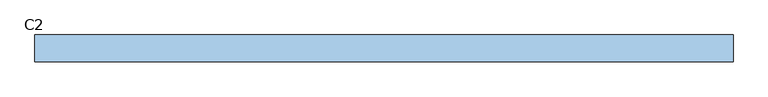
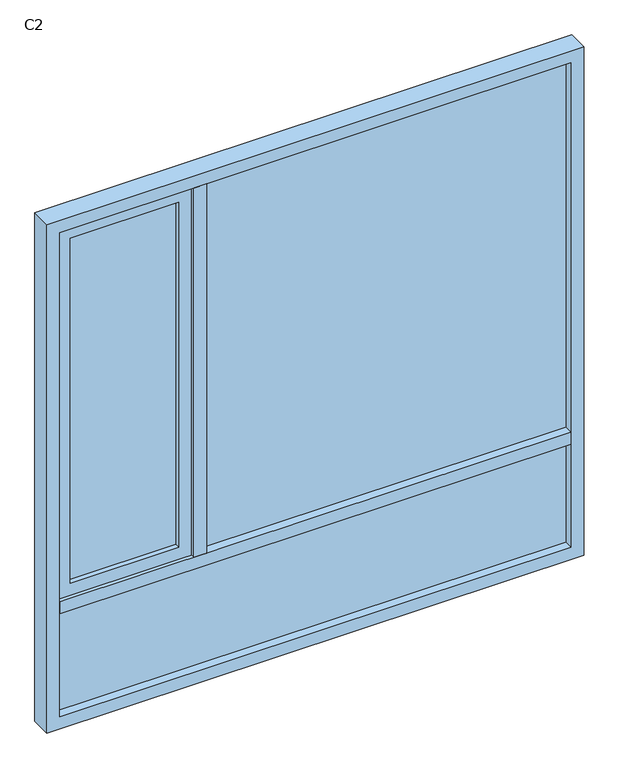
"""IFC4 building model written with IfcOpenShell, lengths in millimetres: window geometry, 组合窗 - 双层双列(平开+固定) - 下部单扇 : C2."""

from ifc_helpers import new_model, si_unit, frame, origin, place, context, project, spatial, polyline, outline, extrude, source, transform, mapped, element, save


def c2_cc7e28b3(model_context):
    return source(origin(), model_context, "Body", "SweptSolid", [
        extrude(outline(polyline([(-525.0, -10.0), (-525.0, -20.0), (-950.0, -20.0), (-950.0, -10.0), (-525.0, -10.0)])), frame((0.0, 0.0, 1175.0), z_axis=(0.0, 0.0, 1.0), x_axis=(1.0, 0.0, 0.0)), (0.0, 0.0, 1.0), 1425.0),
        extrude(outline(polyline([(1125.0, -475.0), (2650.0, -475.0), (2650.0, -1000.0), (1125.0, -1000.0), (1125.0, -475.0)]), holes=[polyline([(2600.0, -525.0), (1175.0, -525.0), (1175.0, -950.0), (2600.0, -950.0), (2600.0, -525.0)])]), frame((0.0, -40.0, 0.0), z_axis=(0.0, 1.0, 0.0), x_axis=(0.0, 0.0, 1.0)), (0.0, 0.0, 1.0), 50.0),
        extrude(outline(polyline([(1000.0, -10.0), (1000.0, -20.0), (-1000.0, -20.0), (-1000.0, -10.0), (1000.0, -10.0)])), frame((0.0, 0.0, 650.0), z_axis=(0.0, 0.0, 1.0), x_axis=(1.0, 0.0, 0.0)), (0.0, 0.0, 1.0), 425.0),
        extrude(outline(polyline([(1000.0, -10.0), (1000.0, -20.0), (-425.0, -20.0), (-425.0, -10.0), (1000.0, -10.0)])), frame((0.0, 0.0, 1125.0), z_axis=(0.0, 0.0, 1.0), x_axis=(1.0, 0.0, 0.0)), (0.0, 0.0, 1.0), 1525.0),
        extrude(outline(polyline([(-475.0, -55.0), (-475.0, 25.0), (-425.0, 25.0), (-425.0, -55.0), (-475.0, -55.0)])), frame((0.0, 0.0, 1125.0), z_axis=(0.0, 0.0, 1.0), x_axis=(1.0, 0.0, 0.0)), (0.0, 0.0, 1.0), 1525.0),
        extrude(outline(polyline([(-1000.0, -55.0), (-1000.0, 25.0), (1000.0, 25.0), (1000.0, -55.0), (-1000.0, -55.0)])), frame((0.0, 0.0, 1075.0), z_axis=(0.0, 0.0, 1.0), x_axis=(1.0, 0.0, 0.0)), (0.0, 0.0, 1.0), 50.0),
        extrude(outline(polyline([(2700.0, 1050.0), (2700.0, -1050.0), (600.0, -1050.0), (600.0, 1050.0), (2700.0, 1050.0)]), holes=[polyline([(2650.0, -1000.0), (2650.0, 1000.0), (650.0, 1000.0), (650.0, -1000.0), (2650.0, -1000.0)])]), frame((0.0, -55.0, 0.0), z_axis=(0.0, 1.0, 0.0), x_axis=(0.0, 0.0, 1.0)), (0.0, 0.0, 1.0), 80.0),
    ])


if __name__ == "__main__":
    model = new_model("IFC4")
    model_context = context("Model", 3, world=origin())
    ifc_project = project(units=[si_unit("LENGTHUNIT", "METRE", prefix="MILLI")], contexts=[model_context])
    site = spatial("IfcSite", under=ifc_project)
    building = spatial("IfcBuilding", under=site)
    placement = place(None, origin())
    c2_shape = c2_cc7e28b3(model_context)
    element("IfcWindow", 1, ObjectType="组合窗 - 双层双列(平开+固定) - 下部单扇 : C2", at=placement, inside=building, context=model_context, shape_type="MappedRepresentation", body=[
        mapped(c2_shape, transform((0.0, 0.0, 0.0), x_axis=(1.0, 0.0, 0.0), y_axis=(0.0, 1.0, 0.0), z_axis=(0.0, 0.0, 1.0))),
    ])
    save(model, "model.ifc")
